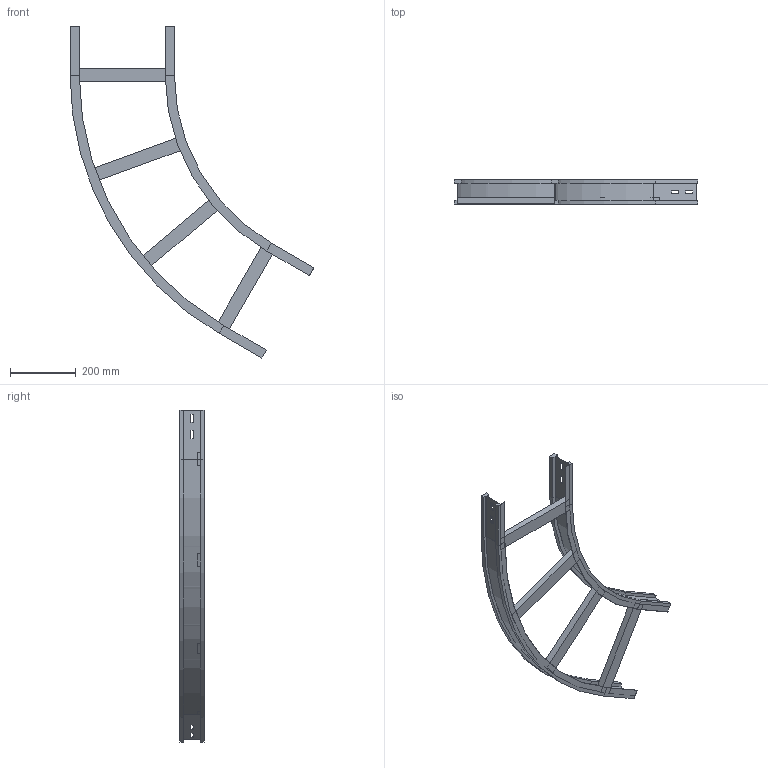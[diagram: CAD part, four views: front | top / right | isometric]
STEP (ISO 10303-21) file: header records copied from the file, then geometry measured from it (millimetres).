
FILE_DESCRIPTION (( 'STEP AP214' ), '1' );
FILE_NAME ('13S6C300.step', '2025-02-21T16:08:18', ( '' ), ( '' ), 'SwSTEP 2.0', 'SolidWorks 2023', '' );
FILE_SCHEMA (( 'AUTOMOTIVE_DESIGN' ));
Length unit declared in the file: millimetre
Products named in the file (4): TRAVERSINO_300; LONGH.ESTERNO 60°_H75_R600+300; LONGH.INTERNO 60°_H75_R600; 13S6C300
Assembly tree (6 placements, depth 2):
  13S6C300
    LONGH.INTERNO 60°_H75_R600
    LONGH.ESTERNO 60°_H75_R600+300
    TRAVERSINO_300  x4
Bounding box: 743.4 x 75 x 1012.22 mm (x, y, z)
Volume: 2029239.9 mm3; surface area: 685601.7 mm2
Topology: 6 solids, 6 shells, 132 faces, 312 edges, 192 vertices
Faces by surface type: plane 120, cylinder 12
Entity records: 3397 total; most frequent: CARTESIAN_POINT 567, ORIENTED_EDGE 552, DIRECTION 546, EDGE_CURVE 276, LINE 252, VECTOR 252, VERTEX_POINT 168, AXIS2_PLACEMENT_3D 147
